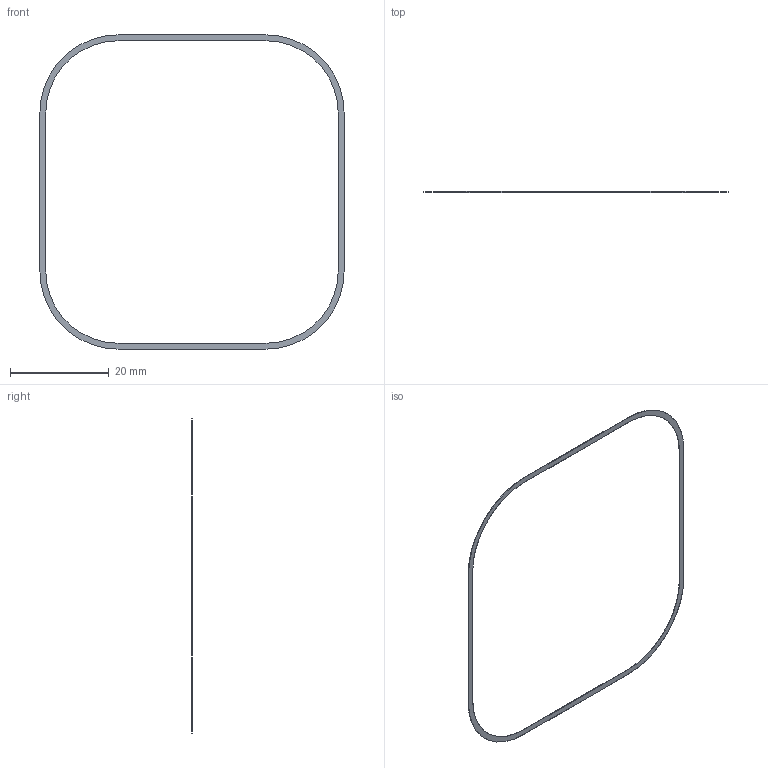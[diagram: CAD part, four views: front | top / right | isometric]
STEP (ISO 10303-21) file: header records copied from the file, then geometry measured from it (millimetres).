
FILE_DESCRIPTION(('Open CASCADE Model'),'2;1');
FILE_NAME('grille_perimeter_PSA_0.10','2026-09-04T19:55:25',('Author'),( 'Open CASCADE'),'Open CASCADE STEP processor 7.8','build123d', 'Unknown');
FILE_SCHEMA(('AUTOMOTIVE_DESIGN { 1 0 10303 214 1 1 1 1 }'));
Length unit declared in the file: millimetre
Products named in the file (1): grille_perimeter_PSA_0.10
Bounding box: 61.7 x 0.1 x 63.7 mm (x, y, z)
Volume: 26.4 mm3; surface area: 571.5 mm2
Topology: 1 solids, 1 shells, 18 faces, 48 edges, 32 vertices
Faces by surface type: plane 10, cylinder 8
Entity records: 1215 total; most frequent: DIRECTION 198, CARTESIAN_POINT 195, LINE 112, VECTOR 112, ORIENTED_EDGE 96, PCURVE 96, DEFINITIONAL_REPRESENTATION 96, EDGE_CURVE 48
